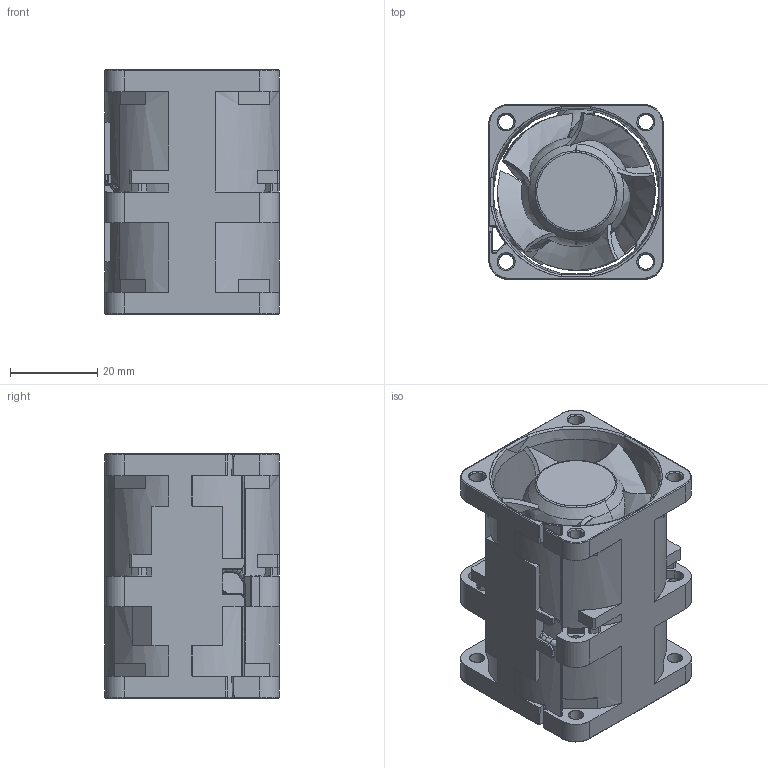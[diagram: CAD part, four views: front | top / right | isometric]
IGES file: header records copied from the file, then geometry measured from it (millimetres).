
Start section: SolidWorks IGES file using analytic representation for surfaces
Global section: file name: C:\Users\yanagisawa-atsushi\Desktop\CAD_DATA\Frame_3D-CAD\40妏56岤CRB僞僀僾\4056CRB RIBRESS.IGS; native system: SolidWorks 2016; preprocessor: SolidWorks 2016; author: Yanagisawa-Atsushi; date: 170126.164654; units: millimetre
Bounding box: 40 x 40 x 56 mm (x, y, z)
Surface area: 25101.4 mm2 (no closed solid volume)
Topology: 0 solids, 0 shells, 442 faces, 4707 edges, 4707 vertices
Faces by surface type: bspline 305, revolution 137
